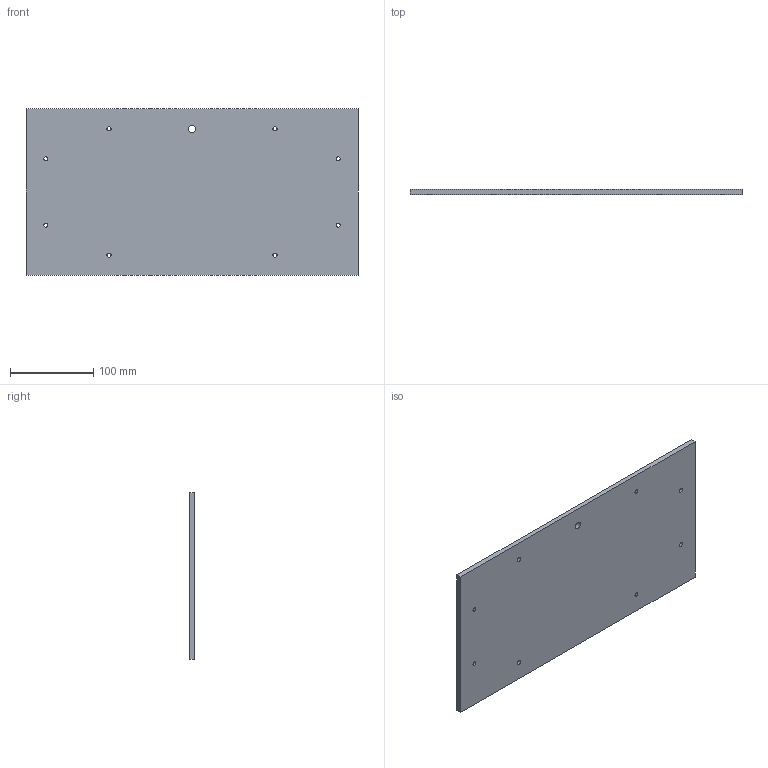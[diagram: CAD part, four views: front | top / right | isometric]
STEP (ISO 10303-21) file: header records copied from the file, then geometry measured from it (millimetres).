
FILE_DESCRIPTION (( 'STEP AP203' ), '1' );
FILE_NAME ('Base_Fond.STEP', '2026-06-24T07:29:49', ( '' ), ( '' ), 'SwSTEP 2.0', 'SolidWorks 2024', '' );
FILE_SCHEMA (( 'CONFIG_CONTROL_DESIGN' ));
Length unit declared in the file: millimetre
Products named in the file (1): Base_Fond_Externe
Bounding box: 400 x 6 x 200 mm (x, y, z)
Volume: 478675.8 mm3; surface area: 167682.2 mm2
Topology: 1 solids, 1 shells, 15 faces, 39 edges, 26 vertices
Faces by surface type: cylinder 9, plane 6
Full cylindrical faces by diameter (mm): 5 x8, 9 x1
Entity records: 537 total; most frequent: DIRECTION 80, CARTESIAN_POINT 72, ORIENTED_EDGE 60, EDGE_LOOP 42, AXIS2_PLACEMENT_3D 34, EDGE_CURVE 30, VERTEX_POINT 26, FACE_OUTER_BOUND 24
